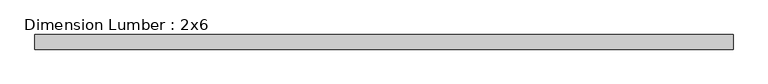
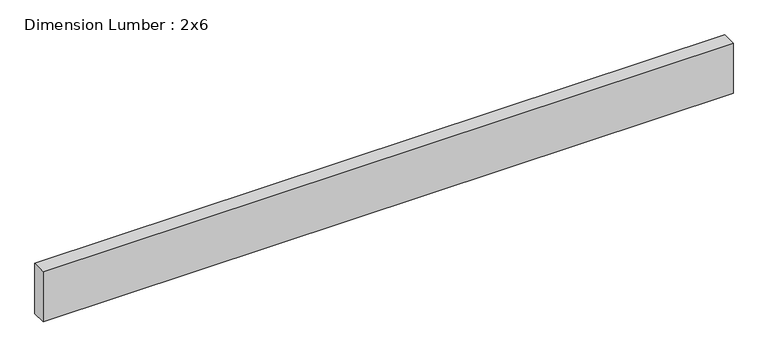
"""IFC4 building model written with IfcOpenShell, lengths in millimetres: beam geometry, Dimension Lumber : 2x6."""

from ifc_helpers import new_model, si_unit, frame, origin, place, context, project, spatial, polyline, outline, extrude, source, transform, mapped, element, save


def dimension_lumber_2x6_370e88c1(model_context):
    return source(origin(), model_context, "Body", "SweptSolid", [
        extrude(outline(polyline([(908.05, 19.05), (908.05, -19.05), (-908.05, -19.05), (-908.05, 19.05), (908.05, 19.05)])), frame((0.0, 0.0, -69.85), z_axis=(0.0, 0.0, 1.0), x_axis=(1.0, 0.0, 0.0)), (0.0, 0.0, 1.0), 139.7),
    ])


if __name__ == "__main__":
    model = new_model("IFC4")
    model_context = context("Model", 3, world=origin())
    ifc_project = project(units=[si_unit("LENGTHUNIT", "METRE", prefix="MILLI")], contexts=[model_context])
    site = spatial("IfcSite", under=ifc_project)
    building = spatial("IfcBuilding", under=site)
    placement = place(None, origin())
    dimension_lumber_2x6_shape = dimension_lumber_2x6_370e88c1(model_context)
    element("IfcBeam", 1, ObjectType="Dimension Lumber : 2x6", at=placement, inside=building, context=model_context, shape_type="MappedRepresentation", body=[
        mapped(dimension_lumber_2x6_shape, transform((0.0, 0.0, 0.0), x_axis=(1.0, 0.0, 0.0), y_axis=(0.0, 1.0, 0.0), z_axis=(0.0, 0.0, 1.0))),
    ])
    save(model, "model.ifc")
